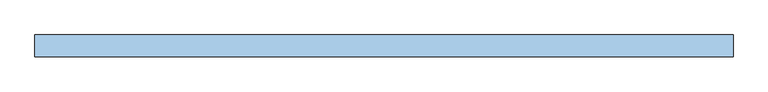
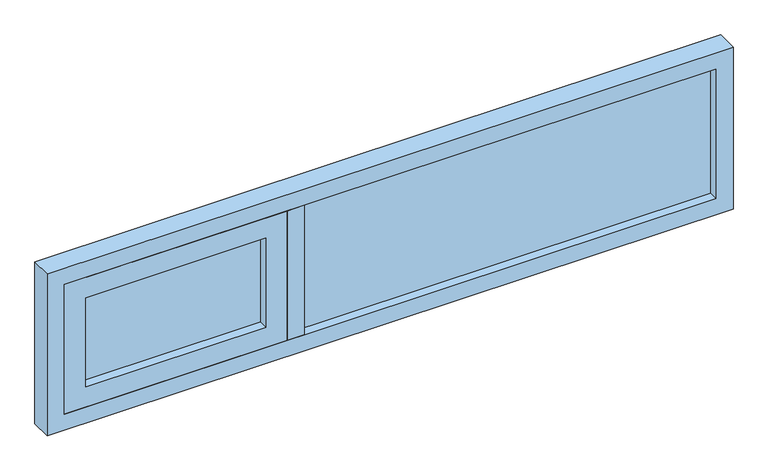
"""IFC4 building model written with IfcOpenShell, lengths in millimetres: window geometry, VENT_ALUM_PROY_LATERAL : VD-11/ PROYECC LATERAL COCINA 1.6 X 0.4."""

from ifc_helpers import new_model, si_unit, frame, origin, place, context, project, spatial, polyline, outline, extrude, source, transform, mapped, element, save


def window_eaecaf5c(model_context):
    return source(origin(), model_context, "Body", "SweptSolid", [
        extrude(outline(polyline([(1092.5, -3.0), (132.5, -3.0), (132.5, 3.0), (1092.5, 3.0), (1092.5, -3.0)])), frame((0.0, 0.0, 2040.0), z_axis=(0.0, 0.0, 1.0), x_axis=(1.0, 0.0, 0.0)), (0.0, 0.0, 1.0), 320.0),
        extrude(outline(polyline([(2000.0, -467.5), (2000.0, 1132.5), (2400.0, 1132.5), (2400.0, -467.5), (2000.0, -467.5)]), holes=[polyline([(2360.0, -427.5), (2360.0, 1092.5), (2040.0, 1092.5), (2040.0, -427.5), (2360.0, -427.5)])]), frame((0.0, -25.0, 0.0), z_axis=(0.0, 1.0, 0.0), x_axis=(0.0, 0.0, 1.0)), (0.0, 0.0, 1.0), 50.0),
        extrude(outline(polyline([(92.5, 25.0), (132.5, 25.0), (132.5, -25.0), (92.5, -25.0), (92.5, 25.0)])), frame((0.0, 0.0, 2040.0), z_axis=(0.0, 0.0, 1.0), x_axis=(1.0, 0.0, 0.0)), (0.0, 0.0, 1.0), 320.0),
        extrude(outline(polyline([(42.5, -3.0), (-377.5, -3.0), (-377.5, 3.0), (42.5, 3.0), (42.5, -3.0)])), frame((0.0, 0.0, 2080.0), z_axis=(0.0, 0.0, 1.0), x_axis=(1.0, 0.0, 0.0)), (0.0, 0.0, 1.0), 230.0),
        extrude(outline(polyline([(2040.0, -427.5), (2040.0, 92.5), (2360.0, 92.5), (2360.0, -427.5), (2040.0, -427.5)]), holes=[polyline([(2310.0, -377.5), (2310.0, 42.5), (2090.0, 42.5), (2090.0, -377.5), (2310.0, -377.5)])]), frame((0.0, -25.0, 0.0), z_axis=(0.0, 1.0, 0.0), x_axis=(0.0, 0.0, 1.0)), (0.0, 0.0, 1.0), 50.0),
    ])


if __name__ == "__main__":
    model = new_model("IFC4")
    model_context = context("Model", 3, world=origin())
    ifc_project = project(units=[si_unit("LENGTHUNIT", "METRE", prefix="MILLI")], contexts=[model_context])
    site = spatial("IfcSite", under=ifc_project)
    building = spatial("IfcBuilding", under=site)
    placement = place(None, origin())
    window_shape = window_eaecaf5c(model_context)
    element("IfcWindow", 1, ObjectType="VENT_ALUM_PROY_LATERAL : VD-11/ PROYECC LATERAL COCINA 1.6 X 0.4", at=placement, inside=building, context=model_context, shape_type="MappedRepresentation", body=[
        mapped(window_shape, transform((0.0, 0.0, 0.0), x_axis=(1.0, 0.0, 0.0), y_axis=(0.0, 1.0, 0.0), z_axis=(0.0, 0.0, 1.0))),
    ])
    save(model, "model.ifc")
